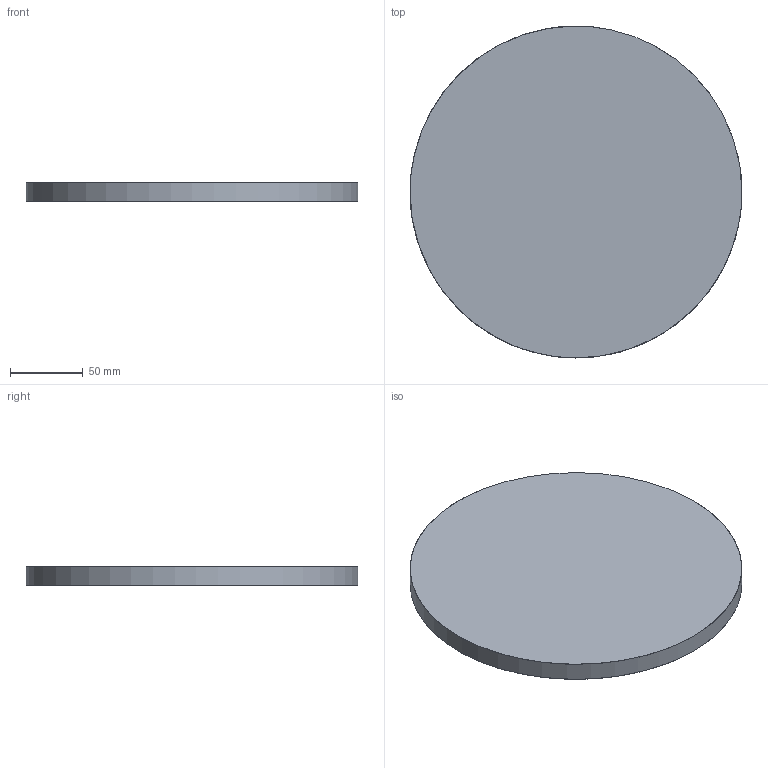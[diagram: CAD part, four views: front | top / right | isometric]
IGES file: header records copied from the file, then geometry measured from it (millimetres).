
Global section: file name: C:\Users\brokamaj\Desktop\Andrew Neyer\art mobile\Wood Circle.igs; native system: Rhinoceros ( Oct 24 2012 ); preprocessor: Trout Lake IGES 012 Oct 24 2012; date: 170801.201533; units: inch
Bounding box: 228.6 x 228.6 x 12.7 mm (x, y, z)
Surface area: 91223.3 mm2 (no closed solid volume)
Topology: 0 solids, 0 shells, 3 faces, 15 edges, 14 vertices
Faces by surface type: bspline 3
